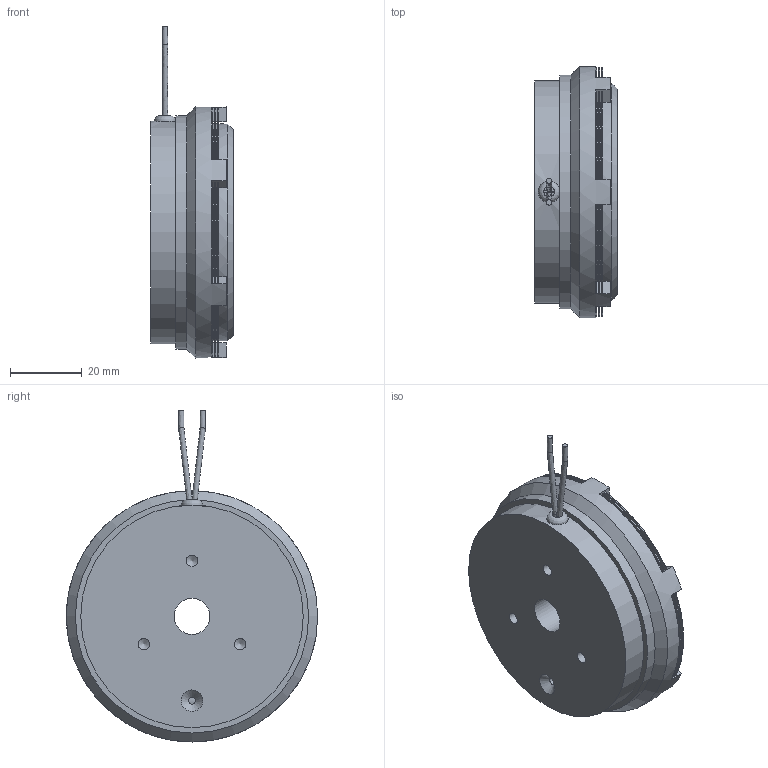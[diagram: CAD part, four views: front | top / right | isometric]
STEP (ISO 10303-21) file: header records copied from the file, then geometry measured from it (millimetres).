
FILE_DESCRIPTION(/* description */ (''),/* implementation_level */ '2;1');
FILE_NAME(/* name */ 'X:\INVENTOR\DISEGNI\05_Friz_Elettmag-Lam\05_06 EC_F\05_06_070_01 EC_F070\05_06_070_01 EC_F070@STEP.stp',/* time_stamp */ '2023-03-09T11:24:28+01:00',/* author */ ('alessio'),/* organization */ (''),/* preprocessor_version */ 'ST-DEVELOPER v18.1',/* originating_system */ 'Autodesk Inventor 2021',/* authorisation */ '');
FILE_SCHEMA (('AUTOMOTIVE_DESIGN { 1 0 10303 214 3 1 1 }'));
Length unit declared in the file: millimetre
Products named in the file (1): 05_06_070_01 EC_F070
Bounding box: 23 x 70 x 92.5 mm (x, y, z)
Volume: 67462.2 mm3; surface area: 34722.1 mm2
Topology: 5 solids, 5 shells, 702 faces, 2043 edges, 1342 vertices
Faces by surface type: cylinder 524, plane 166, cone 6, bspline 5, torus 1
Full cylindrical faces by diameter (mm): 2 x1, 3.242 x3, 10 x1, 26 x1, 39 x1, 55 x1, 60.5 x1, 62 x1, 65 x1, 70 x1
Entity records: 24562 total; most frequent: DIRECTION 4528, CARTESIAN_POINT 4273, ORIENTED_EDGE 4082, EDGE_CURVE 2041, AXIS2_PLACEMENT_3D 1797, VERTEX_POINT 1342, CIRCLE 1093, LINE 934
